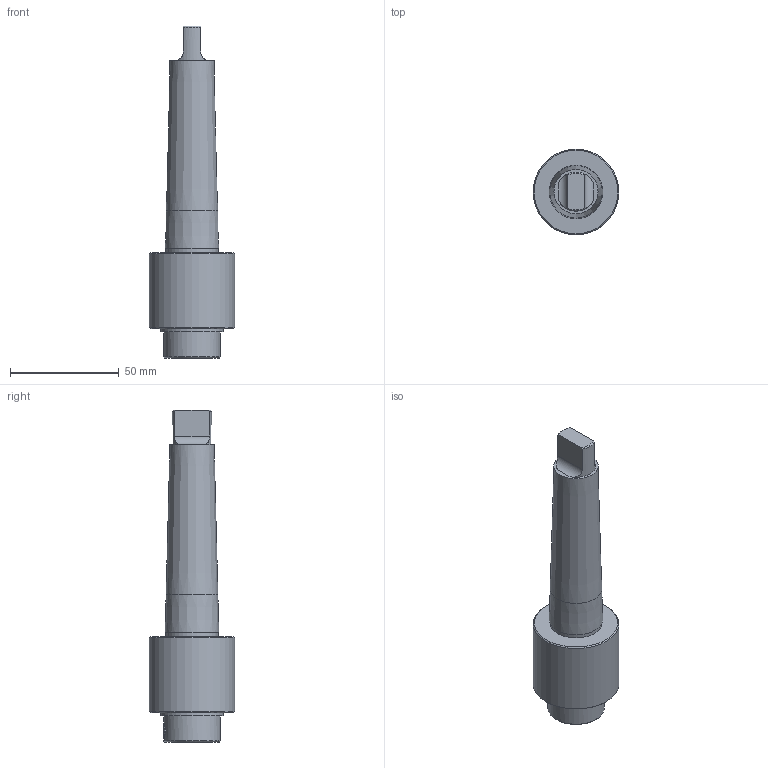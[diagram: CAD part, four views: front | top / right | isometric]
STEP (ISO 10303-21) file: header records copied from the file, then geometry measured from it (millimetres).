
FILE_DESCRIPTION(/* description */ (''),/* implementation_level */ '2;1');
FILE_NAME(/* name */ 'KC-CX16E3 MTA3.stp',/* time_stamp */ '2026-01-13T14:36:13+03:00',/* author */ ('User'),/* organization */ (''),/* preprocessor_version */ 'ST-DEVELOPER v19.2',/* originating_system */ 'Autodesk Inventor 2024',/* authorisation */ '');
FILE_SCHEMA (('AUTOMOTIVE_DESIGN { 1 0 10303 214 3 1 1 }'));
Length unit declared in the file: millimetre
Products named in the file (1): KC-CX16E4
Bounding box: 39.5 x 39.5 x 153 mm (x, y, z)
Volume: 85335.3 mm3; surface area: 15802.7 mm2
Topology: 2 solids, 2 shells, 43 faces, 92 edges, 61 vertices
Faces by surface type: plane 21, cylinder 12, cone 9, bspline 1
Full cylindrical faces by diameter (mm): 8 x1, 8.2 x1, 16 x1, 21.826 x1, 24 x1, 26 x1, 29 x1, 39.5 x1
Entity records: 1494 total; most frequent: CARTESIAN_POINT 510, DIRECTION 197, ORIENTED_EDGE 184, EDGE_CURVE 92, AXIS2_PLACEMENT_3D 77, VERTEX_POINT 61, EDGE_LOOP 53, LINE 43
